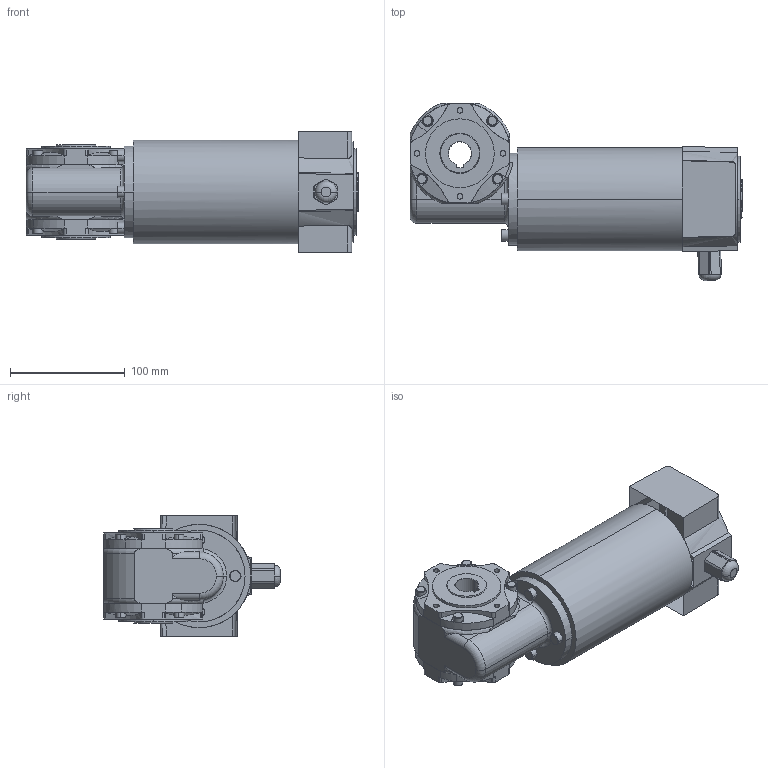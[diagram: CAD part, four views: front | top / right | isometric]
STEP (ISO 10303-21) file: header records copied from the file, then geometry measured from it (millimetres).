
FILE_DESCRIPTION(('OneSpaceDesigner STEP Export'),'2;1');
FILE_NAME('EPG23_GB140.stp','2008-07-15T10:32:42',(''),(''),'OneSpace Designer STEP processor (Jan. 2003) for AP214(CD)(Solid Model)','OneSpace Designer 12.01D 09-Jul-2004 (C) CoCreate Software GmbH','');
FILE_SCHEMA(('AUTOMOTIVE_DESIGN_CC2 {1 2 10303 214 -1 1 5 1}'));
Length unit declared in the file: millimetre
Products named in the file (2): EPG23_GB140
Assembly tree (1 placements, depth 2):
  EPG23_GB140
    EPG23_GB140
Bounding box: 289.5 x 154.49 x 105 mm (x, y, z)
Volume: 1874988.2 mm3; surface area: 120558.8 mm2
Topology: 1 solids, 1 shells, 302 faces, 772 edges, 503 vertices
Faces by surface type: cylinder 141, plane 101, cone 44, torus 14, bspline 2
Entity records: 16105 total; most frequent: CARTESIAN_POINT 9346, ORIENTED_EDGE 1544, DIRECTION 1103, EDGE_CURVE 772, VERTEX_POINT 503, AXIS2_PLACEMENT_3D 395, EDGE_LOOP 335, VECTOR 313
